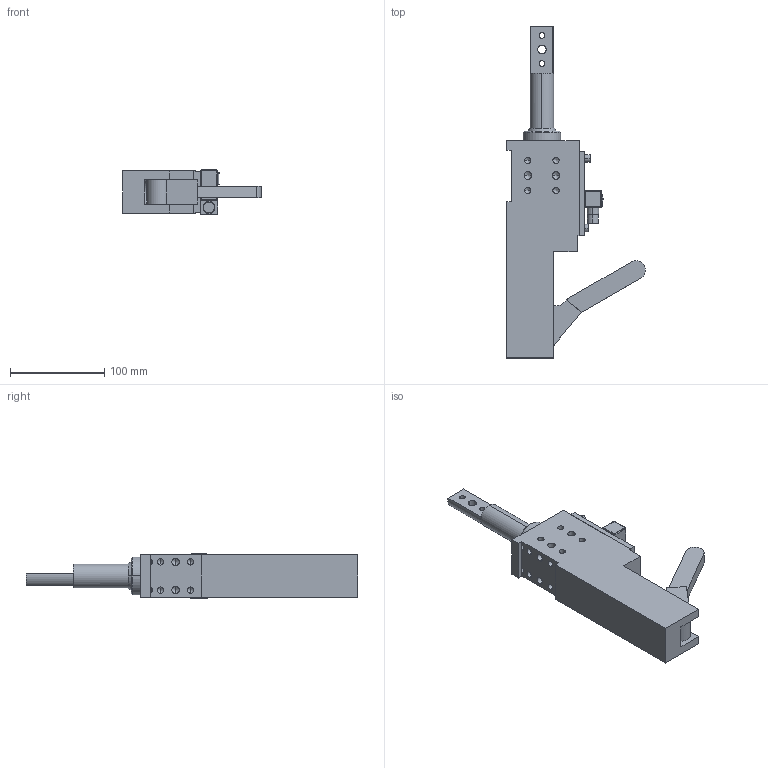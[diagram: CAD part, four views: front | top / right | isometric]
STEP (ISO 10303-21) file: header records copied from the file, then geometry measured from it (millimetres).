
FILE_DESCRIPTION((''),'2;1');
FILE_NAME('S:\Matthew\Step Files\Locators\XLPR 40-HO-40-S23.stp','2006-07-04T16:21:44',('Matthew'),(''),'Autodesk Inventor 8','Autodesk Inventor 8','');
FILE_SCHEMA(('AUTOMOTIVE_DESIGN { 1 0 10303 214 1 1 1 1 }'));
Length unit declared in the file: millimetre
Products named in the file (6): XLPR 40-HO-40-S23; XLPR 40-HO-40-S231; XLPR 40-HO-40-S232; XLPR 40-HO-40-S233; XLPR 40-HO-40-S234; XLPR 40-HO-40-S235
Assembly tree (5 placements, depth 2):
  XLPR 40-HO-40-S23
    XLPR 40-HO-40-S231
    XLPR 40-HO-40-S232
    XLPR 40-HO-40-S233
    XLPR 40-HO-40-S234
    XLPR 40-HO-40-S235
Bounding box: 147.45 x 353 x 47 mm (x, y, z)
Volume: 741821 mm3; surface area: 131795 mm2
Topology: 5 solids, 7 shells, 332 faces, 838 edges, 495 vertices
Faces by surface type: bspline 108, cylinder 100, plane 92, cone 12, torus 12, sphere 8
Entity records: 11408 total; most frequent: CARTESIAN_POINT 3730, DIRECTION 1595, ORIENTED_EDGE 1560, EDGE_CURVE 780, AXIS2_PLACEMENT_3D 600, VERTEX_POINT 495, VECTOR 395, LINE 395
